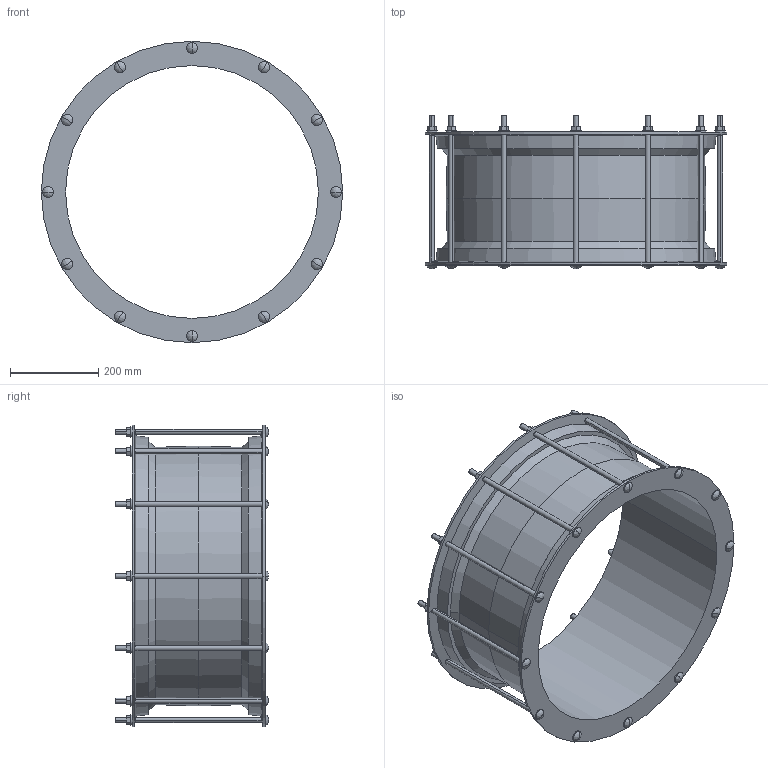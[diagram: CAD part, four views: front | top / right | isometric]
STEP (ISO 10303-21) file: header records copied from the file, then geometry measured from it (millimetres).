
FILE_DESCRIPTION((''),'2;1');
FILE_NAME('MAXIFIT_555_572','2018-12-18T',('mfairey'),('Glynwed Pipe Systems'),'CREO PARAMETRIC BY PTC INC, 2016130','CREO PARAMETRIC BY PTC INC, 2016130','');
FILE_SCHEMA(('CONFIG_CONTROL_DESIGN'));
Length unit declared in the file: millimetre
Products named in the file (1): MAXIFIT_555_572
Bounding box: 684.5 x 348 x 684.5 mm (x, y, z)
Volume: 8440841 mm3; surface area: 1630373.2 mm2
Topology: 1 solids, 1 shells, 254 faces, 616 edges, 386 vertices
Faces by surface type: plane 112, cylinder 102, bspline 24, cone 16
Entity records: 9146 total; most frequent: CARTESIAN_POINT 3250, DIRECTION 1194, ORIENTED_EDGE 1184, EDGE_CURVE 592, AXIS2_PLACEMENT_3D 428, VERTEX_POINT 386, VECTOR 338, LINE 338
